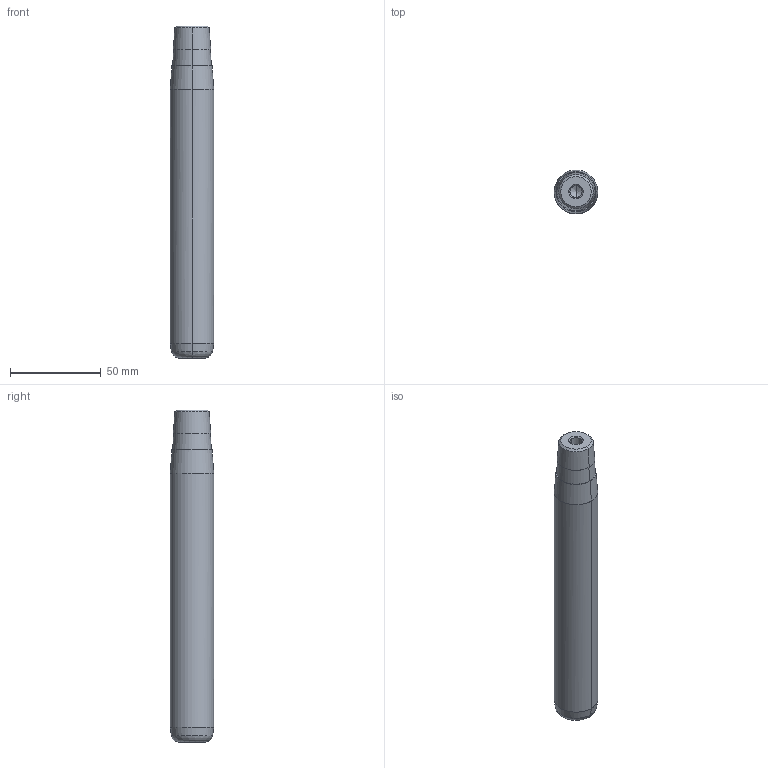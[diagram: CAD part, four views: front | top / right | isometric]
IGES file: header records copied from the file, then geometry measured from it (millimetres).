
Start section: START RECORD GO HERE.
Global section: file name: 722-24x160x183.igs; native system: DASSAULT SYSTEMES CATIA V5 R20 - www.3ds.com; preprocessor: CATIA Version 5 Release 20 ; author: Utente; organization: NB04-ASUS; date: 20210109.093408; units: millimetre
Bounding box: 24 x 24 x 183 mm (x, y, z)
Surface area: 15122.3 mm2 (no closed solid volume)
Topology: 0 solids, 0 shells, 32 faces, 192 edges, 188 vertices
Faces by surface type: revolution 30, plane 2
